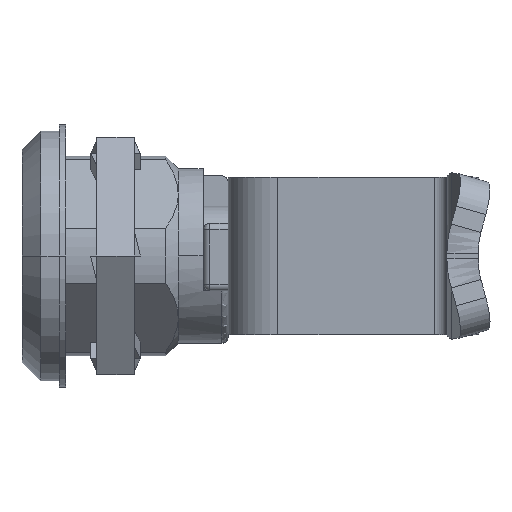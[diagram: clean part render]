
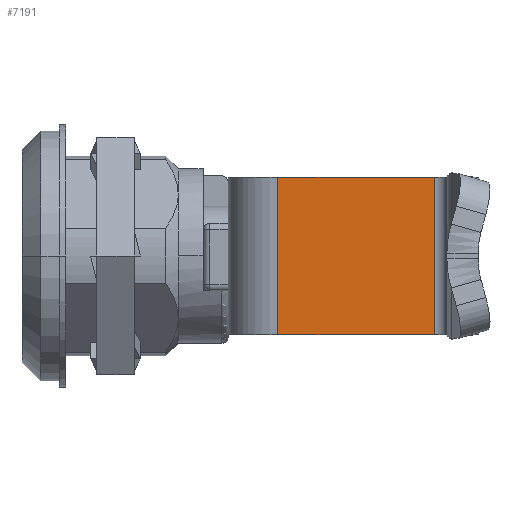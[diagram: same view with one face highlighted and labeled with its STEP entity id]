
A CAD part, left-side view. The second image highlights one B-rep face of the part: STEP entity #7191.
In plain terms, the highlighted planar face has unit normal (-0.999, 0.052, 0) as drawn and (0.999, -0.052, 0) by its records, which use the part's own axes.
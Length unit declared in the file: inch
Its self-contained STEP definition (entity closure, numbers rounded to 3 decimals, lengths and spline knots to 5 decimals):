
#5849=DIRECTION('',(0.,0.,1.));
#5850=VECTOR('',#5849,0.495);
#5851=CARTESIAN_POINT('',(0.56131,0.64991,-0.495));
#5852=LINE('',#5851,#5850);
#5866=DIRECTION('',(0.052,0.999,0.));
#5867=VECTOR('',#5866,0.49422);
#5868=CARTESIAN_POINT('',(0.53544,0.15636,-0.495));
#5869=LINE('',#5868,#5867);
#6068=DIRECTION('',(0.052,0.999,0.));
#6069=VECTOR('',#6068,0.49422);
#6070=CARTESIAN_POINT('',(0.53544,0.15636,0.));
#6071=LINE('',#6070,#6069);
#6100=DIRECTION('',(0.,0.,-1.));
#6101=VECTOR('',#6100,0.495);
#6102=CARTESIAN_POINT('',(0.53544,0.15636,0.));
#6103=LINE('',#6102,#6101);
#6602=CARTESIAN_POINT('',(0.53544,0.15636,0.));
#6603=CARTESIAN_POINT('',(0.53544,0.15636,-0.495));
#6604=VERTEX_POINT('',#6602);
#6605=VERTEX_POINT('',#6603);
#6626=CARTESIAN_POINT('',(0.56131,0.64991,-0.495));
#6627=CARTESIAN_POINT('',(0.56131,0.64991,0.));
#6628=VERTEX_POINT('',#6626);
#6629=VERTEX_POINT('',#6627);
#7179=CARTESIAN_POINT('',(0.52725,0.,0.));
#7180=DIRECTION('',(0.999,-0.052,0.));
#7181=DIRECTION('',(0.052,0.999,0.));
#7182=AXIS2_PLACEMENT_3D('',#7179,#7180,#7181);
#7183=PLANE('',#7182);
#7184=ORIENTED_EDGE('',*,*,#6726,.F.);
#7185=ORIENTED_EDGE('',*,*,#6752,.F.);
#7187=ORIENTED_EDGE('',*,*,#7186,.F.);
#7188=ORIENTED_EDGE('',*,*,#7157,.T.);
#7189=EDGE_LOOP('',(#7184,#7185,#7187,#7188));
#7190=FACE_OUTER_BOUND('',#7189,.F.);
#6726=EDGE_CURVE('',#6628,#6629,#5852,.T.);
#6752=EDGE_CURVE('',#6605,#6628,#5869,.T.);
#7157=EDGE_CURVE('',#6604,#6629,#6071,.T.);
#7186=EDGE_CURVE('',#6604,#6605,#6103,.T.);
#7191=ADVANCED_FACE('',(#7190),#7183,.T.);
